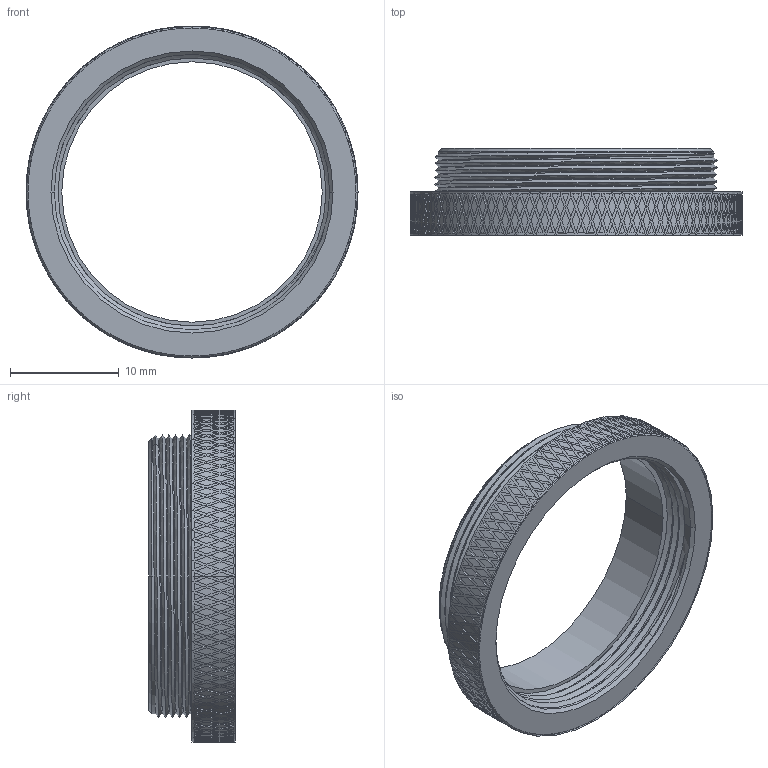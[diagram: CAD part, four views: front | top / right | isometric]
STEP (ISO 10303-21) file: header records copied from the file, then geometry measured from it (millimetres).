
FILE_DESCRIPTION((''),'2;1');
FILE_NAME('CSA-C','2021-01-26T',('Administrator'),(''),'CREO PARAMETRIC BY PTC INC, 2017300','CREO PARAMETRIC BY PTC INC, 2017300','');
FILE_SCHEMA(('CONFIG_CONTROL_DESIGN'));
Length unit declared in the file: millimetre
Products named in the file (1): CSA-C
Bounding box: 30.6 x 8 x 30.6 mm (x, y, z)
Volume: 1214.5 mm3; surface area: 2568.5 mm2
Topology: 1 solids, 2 shells, 2341 faces, 4703 edges, 2366 vertices
Faces by surface type: bspline 1610, cylinder 422, cone 305, plane 4
Entity records: 108878 total; most frequent: CARTESIAN_POINT 74458, ORIENTED_EDGE 9402, EDGE_CURVE 4703, B_SPLINE_CURVE_WITH_KNOTS 4150, DIRECTION 2537, VERTEX_POINT 2366, EDGE_LOOP 2345, FACE_OUTER_BOUND 2341
